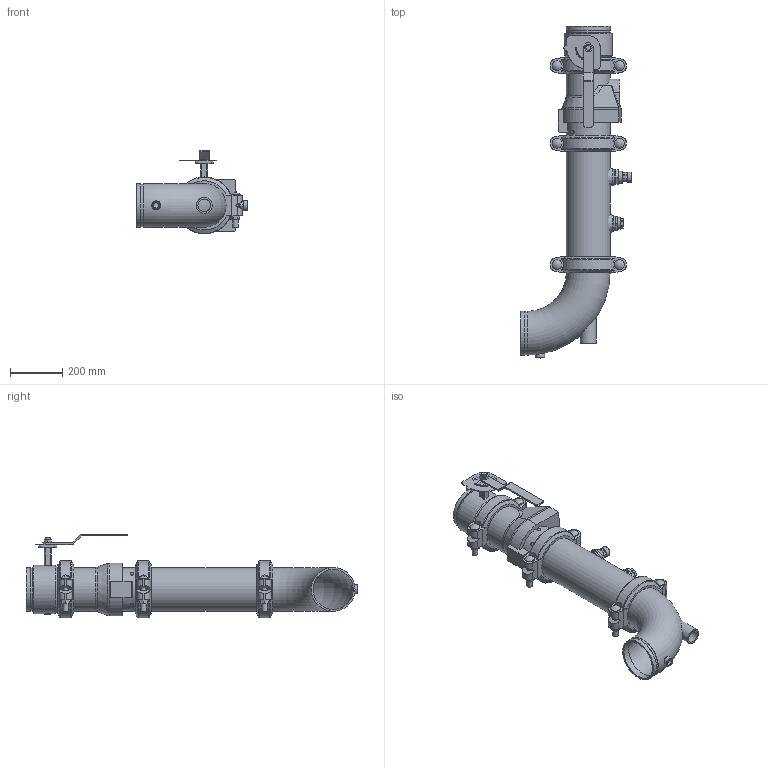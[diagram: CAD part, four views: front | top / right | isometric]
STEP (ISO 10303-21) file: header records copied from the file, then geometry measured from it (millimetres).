
FILE_DESCRIPTION(/* description */ ('VIC DVI PUMP DROP HORZ S/380G (OGSxOGS)','CAx-IF Rec.Pracs.---Representation and Presentation of Product Manufacturing Information (PMI)---4.0---2014-10-13'),/* implementation_level */ '2;1');
FILE_NAME(/* name */ 'C:\Users\kkamble\AppData\Roaming\Autodesk\ApplicationPlugins\Victaulic.Temp\A789\Victaulic_IPS_Horizontal DVI_CL 150_Series 380 (OGSxOGS)_924 (0.75)_06.0x06.0 (150x150).stp',/* time_stamp */ '2021-07-06T09:53:20+05:00',/* author */ ('Vjadhav'),/* organization */ ('Victaulic'),/* preprocessor_version */ 'ST-DEVELOPER v17.2',/* originating_system */ 'Autodesk Inventor 2019',/* authorisation */ '');
FILE_SCHEMA (('AP242_MANAGED_MODEL_BASED_3D_ENGINEERING_MIM_LF { 1 0 10303 442 1 1 4 }'));
Length unit declared in the file: inch
Products named in the file (8): 380_924 (0.75)-06.0x06.0; Pipe-06.0x06.0; 761-06.0; 177N-06.0; 924-04.0x0.75; 923-04.0x0.75; 779-06.0; 100G-06.0
Assembly tree (9 placements, depth 2):
  380_924 (0.75)-06.0x06.0
    177N-06.0  x3
    Pipe-06.0x06.0
    761-06.0
    924-04.0x0.75
    923-04.0x0.75
    779-06.0
    100G-06.0
Bounding box: 426.78 x 1276.35 x 322.45 mm (x, y, z)
Volume: 11340435.4 mm3; surface area: 2081419.1 mm2
Topology: 9 solids, 10 shells, 593 faces, 1535 edges, 1025 vertices
Faces by surface type: plane 341, cylinder 205, torus 21, cone 18, sphere 6, bspline 2
Full cylindrical faces by diameter (mm): 4.826 x10, 8.636 x4, 13.716 x4, 19.05 x2, 20.93 x1, 21.209 x6, 22.86 x1, 26.67 x4, 34.29 x1, 37.694 x6, 38.608 x1, 45.974 x4, 48.26 x1, 55.118 x1, 55.626 x2, 60.96 x1, 154.051 x5, 155.575 x3, 163.957 x8, 168.275 x19, 185.42 x1
Entity records: 13899 total; most frequent: CARTESIAN_POINT 2990, DIRECTION 2244, ORIENTED_EDGE 2050, EDGE_CURVE 1025, AXIS2_PLACEMENT_3D 855, VERTEX_POINT 689, LINE 534, VECTOR 534
